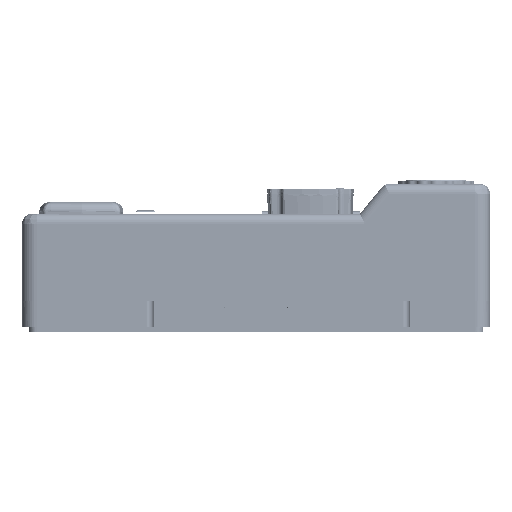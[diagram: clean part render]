
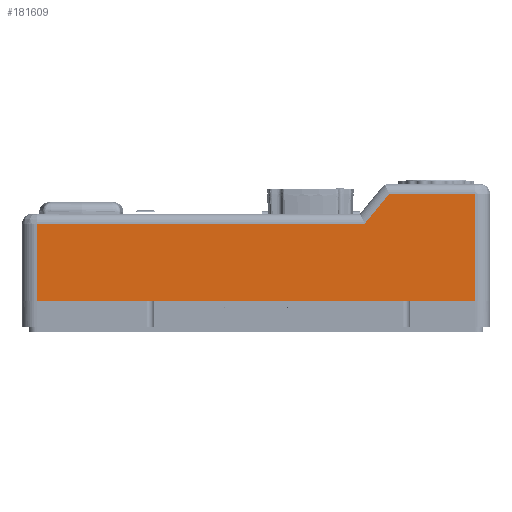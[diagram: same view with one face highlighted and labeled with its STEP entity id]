
A CAD part, front view. The second image highlights one B-rep face of the part: STEP entity #181609.
In plain terms, the highlighted planar face has unit normal (0, -1, 0).
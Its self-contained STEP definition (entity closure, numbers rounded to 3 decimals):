
#12319 = VECTOR ( 'NONE', #441736, 1000. ) ;
#18008 = PLANE ( 'NONE',  #231460 ) ;
#60098 = DIRECTION ( 'NONE',  ( 0., 0., 1. ) ) ;
#62603 = VERTEX_POINT ( 'NONE', #243886 ) ;
#66102 = LINE ( 'NONE', #74996, #308397 ) ;
#71311 = ORIENTED_EDGE ( 'NONE', *, *, #596115, .T. ) ;
#74996 = CARTESIAN_POINT ( 'NONE',  ( 370.728, 5., 108.4 ) ) ;
#93796 = ORIENTED_EDGE ( 'NONE', *, *, #591055, .T. ) ;
#94806 = DIRECTION ( 'NONE',  ( 0., 0., -1. ) ) ;
#122237 = VECTOR ( 'NONE', #572077, 1000. ) ;
#127091 = CARTESIAN_POINT ( 'NONE',  ( 345.728, 5., 78. ) ) ;
#139509 = ORIENTED_EDGE ( 'NONE', *, *, #493140, .T. ) ;
#141689 = CARTESIAN_POINT ( 'NONE',  ( 458., 5., 0. ) ) ;
#148799 = CARTESIAN_POINT ( 'NONE',  ( 13., 5., 78. ) ) ;
#149884 = VERTEX_POINT ( 'NONE', #447499 ) ;
#163031 = VERTEX_POINT ( 'NONE', #127091 ) ;
#168332 = DIRECTION ( 'NONE',  ( -0.635, 0., -0.772 ) ) ;
#181609 = ADVANCED_FACE ( 'NONE', ( #566130 ), #18008, .T. ) ;
#186829 = CARTESIAN_POINT ( 'NONE',  ( 458., 5., 78. ) ) ;
#201680 = VERTEX_POINT ( 'NONE', #141689 ) ;
#206182 = DIRECTION ( 'NONE',  ( 1., 0., 0. ) ) ;
#226541 = EDGE_CURVE ( 'NONE', #522522, #392586, #331171, .T. ) ;
#231460 = AXIS2_PLACEMENT_3D ( 'NONE', #340169, #385389, #569103 ) ;
#243886 = CARTESIAN_POINT ( 'NONE',  ( 13., 5., 78. ) ) ;
#255144 = LINE ( 'NONE', #438765, #12319 ) ;
#264162 = ORIENTED_EDGE ( 'NONE', *, *, #393145, .T. ) ;
#283418 = EDGE_LOOP ( 'NONE', ( #139509, #510622, #264162, #71311, #93796, #403517 ) ) ;
#285969 = LINE ( 'NONE', #186829, #552693 ) ;
#308397 = VECTOR ( 'NONE', #168332, 1000. ) ;
#331171 = LINE ( 'NONE', #388348, #122237 ) ;
#340169 = CARTESIAN_POINT ( 'NONE',  ( 13., 5., 78. ) ) ;
#362543 = CARTESIAN_POINT ( 'NONE',  ( 458., 5., 108.4 ) ) ;
#385389 = DIRECTION ( 'NONE',  ( 0., -1., 0. ) ) ;
#388348 = CARTESIAN_POINT ( 'NONE',  ( 13., 5., 108.4 ) ) ;
#392586 = VERTEX_POINT ( 'NONE', #503457 ) ;
#393145 = EDGE_CURVE ( 'NONE', #62603, #149884, #419931, .T. ) ;
#403517 = ORIENTED_EDGE ( 'NONE', *, *, #226541, .T. ) ;
#419931 = LINE ( 'NONE', #148799, #554526 ) ;
#438765 = CARTESIAN_POINT ( 'NONE',  ( 345.728, 5., 78. ) ) ;
#441736 = DIRECTION ( 'NONE',  ( -1., 0., 0. ) ) ;
#443668 = VECTOR ( 'NONE', #206182, 1000. ) ;
#446768 = LINE ( 'NONE', #579471, #443668 ) ;
#447499 = CARTESIAN_POINT ( 'NONE',  ( 13., 5., 0. ) ) ;
#493140 = EDGE_CURVE ( 'NONE', #392586, #163031, #66102, .T. ) ;
#503457 = CARTESIAN_POINT ( 'NONE',  ( 370.728, 5., 108.4 ) ) ;
#510622 = ORIENTED_EDGE ( 'NONE', *, *, #526587, .T. ) ;
#522522 = VERTEX_POINT ( 'NONE', #362543 ) ;
#526587 = EDGE_CURVE ( 'NONE', #163031, #62603, #255144, .T. ) ;
#552693 = VECTOR ( 'NONE', #60098, 1000. ) ;
#554526 = VECTOR ( 'NONE', #94806, 1000. ) ;
#566130 = FACE_OUTER_BOUND ( 'NONE', #283418, .T. ) ;
#569103 = DIRECTION ( 'NONE',  ( 0., 0., -1. ) ) ;
#572077 = DIRECTION ( 'NONE',  ( -1., 0., 0. ) ) ;
#579471 = CARTESIAN_POINT ( 'NONE',  ( 13., 5., 0. ) ) ;
#591055 = EDGE_CURVE ( 'NONE', #201680, #522522, #285969, .T. ) ;
#596115 = EDGE_CURVE ( 'NONE', #149884, #201680, #446768, .T. ) ;
